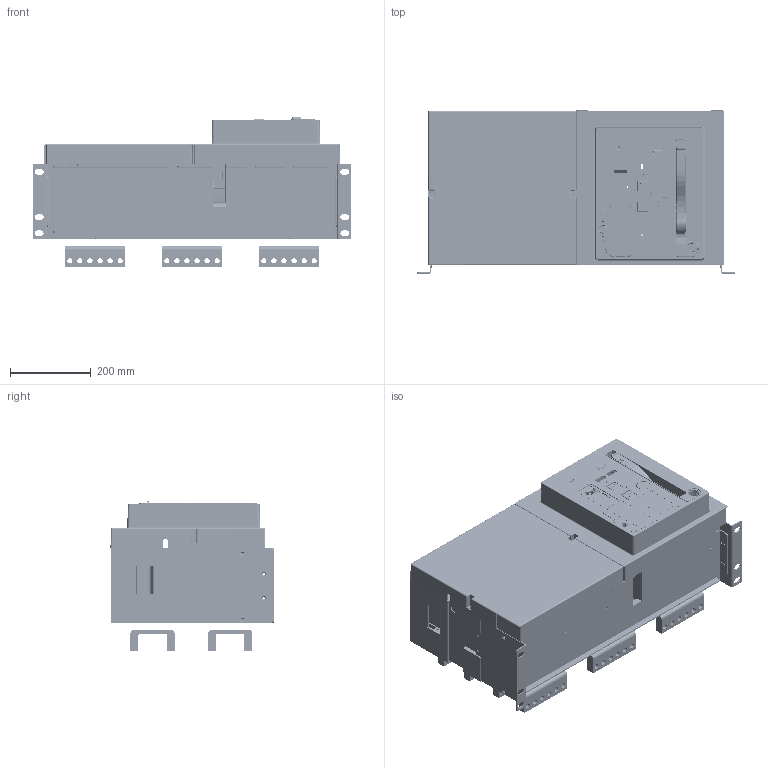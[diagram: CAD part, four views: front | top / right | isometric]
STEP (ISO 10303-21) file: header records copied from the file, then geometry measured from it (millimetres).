
FILE_DESCRIPTION((''),'2;1');
FILE_NAME('HG_23_D403_633_H_FIX_ASM_ASM','2019-03-29T',('HHI'),(''),'PRO/ENGINEER BY PARAMETRIC TECHNOLOGY CORPORATION, 2012453','PRO/ENGINEER BY PARAMETRIC TECHNOLOGY CORPORATION, 2012453','');
FILE_SCHEMA(('CONFIG_CONTROL_DESIGN'));
Products named in the file (26): U_MAIN_CO_MOLD_403F_5; SC_MAIN_CO_MOLD_403R_5; PRT0171; PRT0172; PRT0173; PRT0174; ASM0053_ASM; PRT0175; PRT0176; PRT0177; ASM0054_ASM; PRT0180; PRT0181; ASM0052_ASM; 3AT-04830_5; PRT0182; PRT0183; PRT0184; 3AT-04946_1; FIX_BODY_633_ASM_4_ASM; 3AT-05282_1; D633_H_FIX_ASM_2_ASM; HG_FRONT_COVER_40; 4AT-06477S03; 4AT-06477S04; HG_23_D403_633_H_FIX_ASM_ASM
Assembly tree (39 placements, depth 6):
  HG_23_D403_633_H_FIX_ASM_ASM
    D633_H_FIX_ASM_2_ASM
      FIX_BODY_633_ASM_4_ASM
        U_MAIN_CO_MOLD_403F_5  x2
        SC_MAIN_CO_MOLD_403R_5  x2
        ASM0052_ASM
          ASM0053_ASM
            PRT0171
            PRT0172
            PRT0173
            PRT0174
          ASM0054_ASM
            PRT0175
            PRT0176
            PRT0177
          PRT0180
          PRT0181
        3AT-04830_5
        PRT0182  x6
        PRT0183
        PRT0184
        3AT-04946_1
      3AT-05282_1  x8
    HG_FRONT_COVER_40
    4AT-06477S03
    4AT-06477S04
Bounding box: 791.4 x 405.08 x 371.63 mm (x, y, z)
Volume: 16660738.4 mm3; surface area: 5641862.3 mm2
Topology: 34 solids, 50 shells, 10599 faces, 29418 edges, 19265 vertices
Faces by surface type: plane 6697, cylinder 3169, torus 259, cone 148, extrusion 145, sphere 106, bspline 75
Entity records: 240877 total; most frequent: CARTESIAN_POINT 49171, ORIENTED_EDGE 40618, DIRECTION 38865, EDGE_CURVE 20333, VECTOR 14853, LINE 14710, VERTEX_POINT 13236, AXIS2_PLACEMENT_3D 12006
